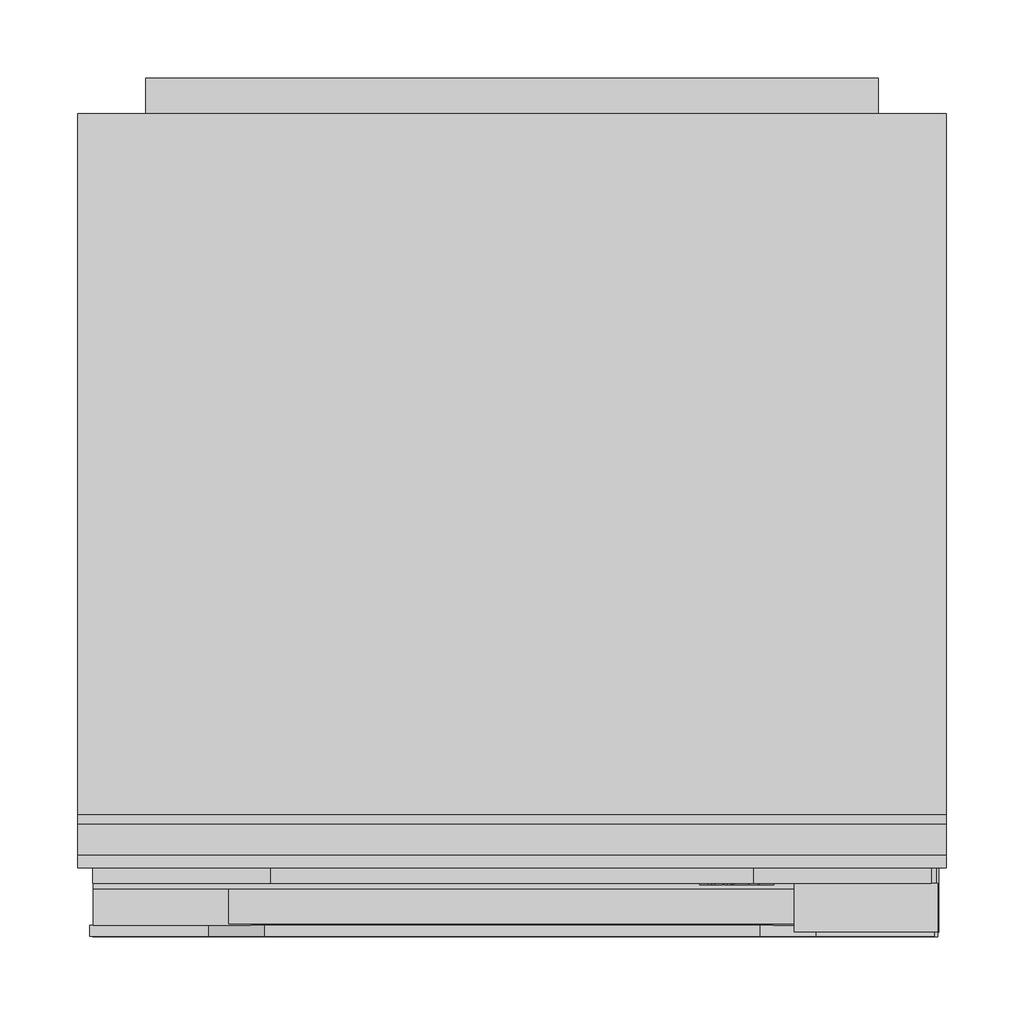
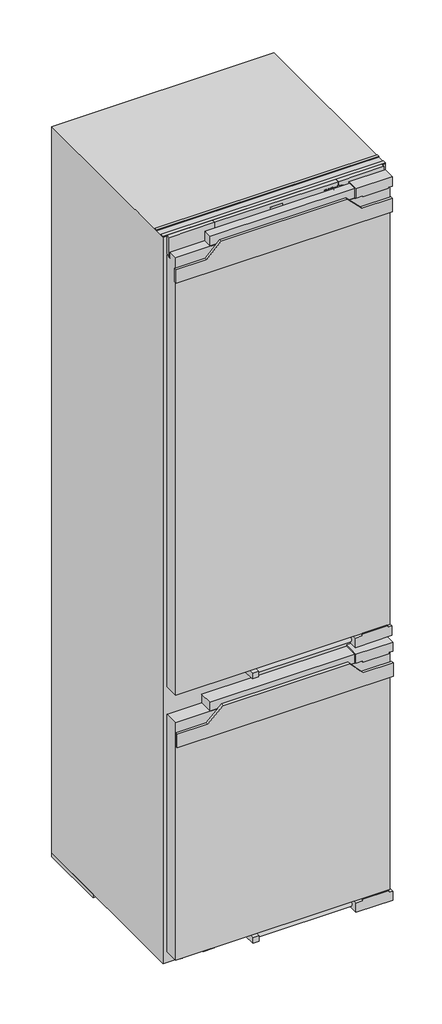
# Not in any storey: 1 proxy.
"""IFC4 building model written with IfcOpenShell, lengths in millimetres."""

import ifcopenshell
import ifcopenshell.guid

model = None  # the IFC model being written
_history = None  # IfcOwnerHistory: only IFC2X3 demands one
_inside = {}  # id of a spatial element -> (the spatial element, [elements in it])
_under = {}  # id of a project, library or spatial element -> (it, [spatial elements below it])
_declared = {}  # id of a project -> (the project, [libraries it declares])
_typed = {}  # id of a type object -> (the type object, [elements of that type])
_made_of = {}  # id of a material, layer set ... -> (it, [elements and type objects made of it])


def new_model(schema):
    """Start an empty IFC model of exactly this schema.

    Asked for "IFC4X3", IfcOpenShell would pick the latest addendum, in which some entities
    have other attributes; the version numbers below select the first issue.
    IFC2X3 requires an IfcOwnerHistory on every rooted entity: one is made here for all.
    """
    global model, _history
    if schema == "IFC4X3":
        model = ifcopenshell.file(schema_version=(4, 3, 0, 0))
    else:
        model = ifcopenshell.file(schema=schema)
    _inside.clear()
    _under.clear()
    _declared.clear()
    _typed.clear()
    _made_of.clear()
    _history = None
    if model.schema == "IFC2X3":
        org = make("IfcOrganization", Name="unknown")
        user = make(
            "IfcPersonAndOrganization",
            ThePerson=make("IfcPerson", FamilyName="unknown"),
            TheOrganization=org,
        )
        app = make(
            "IfcApplication",
            ApplicationDeveloper=org,
            Version="unknown",
            ApplicationFullName="unknown",
            ApplicationIdentifier="unknown",
        )
        _history = make(
            "IfcOwnerHistory",
            OwningUser=user,
            OwningApplication=app,
            ChangeAction="ADDED",
            CreationDate=0,
        )
    return model


def make(cls, **values):
    """One entity of the class cls with the attributes given. An attribute that is None is left unset."""
    return model.create_entity(
        cls, **{name: value for name, value in values.items() if value is not None}
    )


def rooted(cls, **values):
    """An entity with a GlobalId (a new one), such as an element, a storey or a relation."""
    return make(cls, GlobalId=ifcopenshell.guid.new(), OwnerHistory=_history, **values)


def si_unit(unit_type, name, prefix=None):
    """IfcSIUnit, for example si_unit("LENGTHUNIT", "METRE", prefix="MILLI")."""
    return make("IfcSIUnit", UnitType=unit_type, Prefix=prefix, Name=name)


def assignment(units):
    """IfcUnitAssignment: the units of a project."""
    return None if units is None else make("IfcUnitAssignment", Units=units)


def point(xyz):
    """IfcCartesianPoint."""
    return None if xyz is None else make("IfcCartesianPoint", Coordinates=xyz)


def direction(xyz):
    """IfcDirection."""
    return None if xyz is None else make("IfcDirection", DirectionRatios=xyz)


def frame(location, z_axis=None, x_axis=None):
    """IfcAxis2Placement3D, a coordinate frame: its origin and axes. An axis left out is left unset."""
    return make(
        "IfcAxis2Placement3D",
        Location=point(location),
        Axis=direction(z_axis),
        RefDirection=direction(x_axis),
    )


def frame_2d(location, x_axis=None):
    """IfcAxis2Placement2D, a coordinate frame in the plane: its origin and x axis."""
    return make(
        "IfcAxis2Placement2D", Location=point(location), RefDirection=direction(x_axis)
    )


def origin():
    """The frame at (0, 0, 0) with its axes left unset."""
    return frame((0.0, 0.0, 0.0))


def origin_with_axes():
    """The frame at (0, 0, 0) with the z axis (0, 0, 1) and the x axis (1, 0, 0) written out."""
    return frame((0.0, 0.0, 0.0), z_axis=(0.0, 0.0, 1.0), x_axis=(1.0, 0.0, 0.0))


def place(relative_to, where):
    """IfcLocalPlacement: puts the frame where relative to a parent placement (None: the world)."""
    return make(
        "IfcLocalPlacement", PlacementRelTo=relative_to, RelativePlacement=where
    )


def context(
    kind, dimensions, precision=None, world=None, true_north=None, identifier=None
):
    """IfcGeometricRepresentationContext, for example the 3D "Model" context."""
    return make(
        "IfcGeometricRepresentationContext",
        ContextIdentifier=identifier,
        ContextType=kind,
        CoordinateSpaceDimension=dimensions,
        Precision=precision,
        WorldCoordinateSystem=world,
        TrueNorth=true_north,
    )


def project(units=None, contexts=None):
    """IfcProject with its units and contexts."""
    return rooted(
        "IfcProject",
        Name="project",
        RepresentationContexts=contexts,
        UnitsInContext=assignment(units),
    )


def spatial(cls, under=None, at=None, **own):
    """A site, building, storey or space (cls), placed at a placement, below another one or the project."""
    s = rooted(cls, ObjectPlacement=at, **own)
    if under is not None:
        _under.setdefault(under.id(), (under, []))[1].append(s)
    return s


def polyline(points):
    """IfcPolyline through the points."""
    return make("IfcPolyline", Points=[point(p) for p in points])


def circle_curve(where, radius):
    """IfcCircle in the frame where."""
    return make("IfcCircle", Position=where, Radius=radius)


def ellipse_curve(where, semi_axis1, semi_axis2):
    """IfcEllipse in the frame where."""
    return make(
        "IfcEllipse", Position=where, SemiAxis1=semi_axis1, SemiAxis2=semi_axis2
    )


def trimmed(basis, trim1, trim2, sense, master):
    """IfcTrimmedCurve: the piece of a basis curve between two trims."""
    return make(
        "IfcTrimmedCurve",
        BasisCurve=basis,
        Trim1=trim1,
        Trim2=trim2,
        SenseAgreement=sense,
        MasterRepresentation=master,
    )


def segment(curve, same_sense, transition):
    """IfcCompositeCurveSegment."""
    return make(
        "IfcCompositeCurveSegment",
        Transition=transition,
        SameSense=same_sense,
        ParentCurve=curve,
    )


def composite_curve(segments, self_intersect=None):
    """IfcCompositeCurve: segments joined end to end."""
    return make("IfcCompositeCurve", Segments=segments, SelfIntersect=self_intersect)


def outline(outer, holes=None, kind="AREA"):
    """IfcArbitraryClosedProfileDef: a profile drawn as a closed curve; with holes, ...WithVoids."""
    if holes is None:
        return make("IfcArbitraryClosedProfileDef", ProfileType=kind, OuterCurve=outer)
    return make(
        "IfcArbitraryProfileDefWithVoids",
        ProfileType=kind,
        OuterCurve=outer,
        InnerCurves=holes,
    )


def extrude(swept, where, along, depth):
    """IfcExtrudedAreaSolid: the profile swept, set in the frame where, extruded along a direction by depth."""
    return make(
        "IfcExtrudedAreaSolid",
        SweptArea=swept,
        Position=where,
        ExtrudedDirection=direction(along),
        Depth=depth,
    )


def faces_of(points, faces, orient=None, outer=None):
    """IfcFace entities. A face is a list of loops; a loop is a list of indices into points, from 0.

    orient and outer hold one flag for each loop. By default every Orientation is true, the
    first loop of a face is its IfcFaceOuterBound and the others are IfcFaceBound.
    """
    made = []
    for i, loops in enumerate(faces):
        bounds = []
        for j, loop in enumerate(loops):
            is_outer = j == 0 if outer is None else outer[i][j]
            bounds.append(
                make(
                    "IfcFaceOuterBound" if is_outer else "IfcFaceBound",
                    Bound=make("IfcPolyLoop", Polygon=[points[k] for k in loop]),
                    Orientation=True if orient is None else orient[i][j],
                )
            )
        made.append(make("IfcFace", Bounds=bounds))
    return made


def faceted_brep(points, faces, orient=None, outer=None, voids=None):
    """IfcFacetedBrep: a solid bounded by flat faces; with voids (closed shells), ...WithVoids."""
    shared = [point(p) for p in points]
    hull = make("IfcClosedShell", CfsFaces=faces_of(shared, faces, orient, outer))
    if voids is None:
        return make("IfcFacetedBrep", Outer=hull)
    return make(
        "IfcFacetedBrepWithVoids",
        Outer=hull,
        Voids=[
            make(cls, CfsFaces=faces_of(shared, fs, o, b)) for cls, fs, o, b in voids
        ],
    )


def shape(context_of_items, identifier, shape_type, items):
    """IfcShapeRepresentation: the items that make up one representation, for example the "Body"."""
    return make(
        "IfcShapeRepresentation",
        ContextOfItems=context_of_items,
        RepresentationIdentifier=identifier,
        RepresentationType=shape_type,
        Items=items,
    )


def source(mapping_origin, context_of_items, identifier, shape_type, items):
    """IfcRepresentationMap: a shape defined once, which mapped items show again and again."""
    return make(
        "IfcRepresentationMap",
        MappingOrigin=mapping_origin,
        MappedRepresentation=shape(context_of_items, identifier, shape_type, items),
    )


def transform(
    local_origin,
    x_axis=None,
    y_axis=None,
    z_axis=None,
    scale=None,
    scale2=None,
    scale3=None,
    uniform=True,
):
    """IfcCartesianTransformationOperator3D, or its non-uniform kind. x_axis, y_axis, z_axis: its Axis1, 2, 3."""
    if uniform:
        return make(
            "IfcCartesianTransformationOperator3D",
            Axis1=direction(x_axis),
            Axis2=direction(y_axis),
            LocalOrigin=point(local_origin),
            Scale=scale,
            Axis3=direction(z_axis),
        )
    return make(
        "IfcCartesianTransformationOperator3DnonUniform",
        Axis1=direction(x_axis),
        Axis2=direction(y_axis),
        LocalOrigin=point(local_origin),
        Scale=scale,
        Axis3=direction(z_axis),
        Scale2=scale2,
        Scale3=scale3,
    )


def mapped(mapping_source, mapping_target):
    """IfcMappedItem: shows the shape of a source again, moved by a transform."""
    return make(
        "IfcMappedItem", MappingSource=mapping_source, MappingTarget=mapping_target
    )


def made_of(thing, what):
    """Note that an element or type object is made of a material, layer set ...; save() writes the relation."""
    if what is not None:
        _made_of.setdefault(what.id(), (what, []))[1].append(thing)
    return thing


def element(
    cls,
    number,
    at=None,
    inside=None,
    cuts=None,
    type_object=None,
    material=None,
    context=None,
    identifier="Body",
    shape_type=None,
    held_by="IfcProductDefinitionShape",
    body=None,
    shapes=None,
    **own,
):
    """One element of the class cls, such as IfcWall. Its Tag is "e" and its number.

    at: its placement. inside: the storey or other place that contains it. cuts: it is an
    opening in that element (IfcRelVoidsElement). A single representation is given by context,
    identifier, shape_type and body (its items); several are given by shapes. held_by: the class
    of the entity that holds the representations. save() writes the other relations.
    """
    e = rooted(cls, Tag="e%d" % number, ObjectPlacement=at, **own)
    if body is not None:
        shapes = [shape(context, identifier, shape_type, body)]
    if shapes is not None:
        e.Representation = make(held_by, Representations=shapes)
    if inside is not None:
        _inside.setdefault(inside.id(), (inside, []))[1].append(e)
    if cuts is not None:
        rooted(
            "IfcRelVoidsElement", RelatingBuildingElement=cuts, RelatedOpeningElement=e
        )
    if type_object is not None:
        _typed.setdefault(type_object.id(), (type_object, []))[1].append(e)
    return made_of(e, material)


def aggregate(whole, parts):
    """IfcRelAggregates: a whole, such as a stair, and the parts it consists of."""
    return rooted("IfcRelAggregates", RelatingObject=whole, RelatedObjects=parts)


def save(model, path):
    """Write the relations noted so far, then the file.

    IfcRelAggregates (storeys below a building ...), IfcRelContainedInSpatialStructure (elements
    in a storey), IfcRelDefinesByType, IfcRelAssociatesMaterial and IfcRelDeclares: one each for
    every whole, place, type object, material and project.
    """
    for whole, parts in _under.values():
        aggregate(whole, parts)
    for where, things in _inside.values():
        rooted(
            "IfcRelContainedInSpatialStructure",
            RelatedElements=things,
            RelatingStructure=where,
        )
    for kind, things in _typed.values():
        rooted("IfcRelDefinesByType", RelatedObjects=things, RelatingType=kind)
    for what, things in _made_of.values():
        rooted("IfcRelAssociatesMaterial", RelatedObjects=things, RelatingMaterial=what)
    for by, libraries in _declared.values():
        rooted("IfcRelDeclares", RelatingContext=by, RelatedDefinitions=libraries)
    model.write(path)


def plane_surface(at):
    """IfcPlane: the flat surface through the origin of the frame at, square to its z axis."""
    return make("IfcPlane", Position=at)


def cylinder_surface(at, radius):
    """IfcCylindricalSurface: all points at the distance radius from the z axis of the frame at."""
    return make("IfcCylindricalSurface", Position=at, Radius=radius)


def revolved_surface(curve, axis_point, axis_direction):
    """IfcSurfaceOfRevolution: the curve turned about the line through axis_point along axis_direction."""
    return make(
        "IfcSurfaceOfRevolution",
        SweptCurve=make("IfcArbitraryOpenProfileDef", ProfileType="CURVE", Curve=curve),
        AxisPosition=make("IfcAxis1Placement", Location=point(axis_point), Axis=direction(axis_direction)),
    )


def extruded_surface(curve, direction_of_extrusion, depth):
    """IfcSurfaceOfLinearExtrusion: the curve pushed along a direction by depth."""
    return make(
        "IfcSurfaceOfLinearExtrusion",
        SweptCurve=make("IfcArbitraryOpenProfileDef", ProfileType="CURVE", Curve=curve),
        ExtrudedDirection=direction(direction_of_extrusion),
        Depth=depth,
    )


def advanced_brep(points, edges, surfaces, faces):
    """IfcAdvancedBrep: a solid bounded by faces that lie on surfaces and meet in shared edges.

    An edge is (start, end): straight between two places in points (the first is 0);
    or (start, end, curve); or (start, end, curve, False) where it runs against its curve.
    A face is (place in surfaces, loops), or (place, loops, False) where it looks against
    its surface's normal. A loop lists edges by number (the first is 1), with a minus sign
    where the edge is run from its end to its start. The first loop is the outer one.
    """
    corners = [point(p) for p in points]
    vertices = [make("IfcVertexPoint", VertexGeometry=c) for c in corners]
    made = []
    for start, end, *more in edges:
        made.append(
            make(
                "IfcEdgeCurve",
                EdgeStart=vertices[start],
                EdgeEnd=vertices[end],
                EdgeGeometry=more[0] if more else make("IfcPolyline", Points=[corners[start], corners[end]]),
                SameSense=more[1] if len(more) > 1 else True,
            )
        )
    hull = []
    for where, loops, *sense in faces:
        bounds = []
        for j, loop in enumerate(loops):
            ring = [make("IfcOrientedEdge", EdgeElement=made[abs(k) - 1], Orientation=k > 0) for k in loop]
            bounds.append(
                make(
                    "IfcFaceOuterBound" if j == 0 else "IfcFaceBound",
                    Bound=make("IfcEdgeLoop", EdgeList=ring),
                    Orientation=True,
                )
            )
        hull.append(make("IfcAdvancedFace", Bounds=bounds, FaceSurface=surfaces[where], SameSense=sense[0] if sense else True))
    return make("IfcAdvancedBrep", Outer=make("IfcClosedShell", CfsFaces=hull))


def specialty_equipment_554c32f7(model_context):
    return source(origin(), model_context, "Body", "SolidModel", [
        advanced_brep(
        [(162.7818, 33.0, 1920.3478), (162.7818, 33.0, 1921.1356), (168.0, 33.0, 1921.1356), (158.9208, 33.0, 1921.1356), (161.0658, 33.0, 1918.4992), (167.8674, 33.0, 1920.3478), (165.5118, 33.0, 1920.3478), (163.6554, 33.0, 1919.4742), (162.7818, 33.0, 1922.134), (162.7818, 33.0, 1922.9842), (164.1156, 33.0, 1922.9842), (164.1156, 33.0, 1922.134), (162.7818, 34.0, 1920.3478), (163.6554, 34.0, 1919.4742), (165.5118, 34.0, 1920.3478), (167.8674, 34.0, 1920.3478), (161.0658, 34.0, 1918.4992), (158.9208, 34.0, 1921.1356), (168.0, 34.0, 1921.1356), (162.7818, 34.0, 1921.1356), (162.7818, 34.0, 1922.134), (164.1156, 34.0, 1922.134), (164.1156, 34.0, 1922.9842), (162.7818, 34.0, 1922.9842)],
        [
            (0, 1),
            (1, 2),
            (2, 3, ellipse_curve(frame((163.4604, 33.0, 1921.1356), z_axis=(0.0, -1.0, 0.0), x_axis=(-1.0, 0.0, 0.0)), 4.5396, 3.7518)),
            (3, 4, circle_curve(frame((161.9394425, 33.0, 1921.4008), z_axis=(0.0, -1.0, 0.0), x_axis=(0.0, 0.0, -1.0)), 3.0302696)),
            (4, 5, circle_curve(frame((163.3695237, 33.0, 1923.46), z_axis=(0.0, -1.0, 0.0), x_axis=(0.0, 0.0, -1.0)), 5.4696142)),
            (5, 6),
            (6, 7, circle_curve(frame((164.0366824, 33.0, 1921.0732), z_axis=(0.0, 1.0, 0.0), x_axis=(0.0, 0.0, -1.0)), 1.64383)),
            (7, 0, circle_curve(frame((163.6554, 33.0, 1920.3478), z_axis=(0.0, 1.0, 0.0), x_axis=(0.0, 0.0, -1.0)), 0.8736)),
            (8, 9),
            (9, 10, circle_curve(frame((163.4487, 33.0, 1922.9842), z_axis=(0.0, 1.0, 0.0), x_axis=(0.0, 0.0, -1.0)), 0.6669)),
            (10, 11),
            (11, 8),
            (12, 13, circle_curve(frame((163.6554, 34.0, 1920.3478), z_axis=(0.0, -1.0, 0.0), x_axis=(0.0, 0.0, -1.0)), 0.8736)),
            (13, 14, circle_curve(frame((164.0366824, 34.0, 1921.0732), z_axis=(0.0, -1.0, 0.0), x_axis=(0.0, 0.0, -1.0)), 1.64383)),
            (14, 15),
            (15, 16, circle_curve(frame((163.3695237, 34.0, 1923.46), z_axis=(0.0, 1.0, 0.0), x_axis=(0.0, 0.0, -1.0)), 5.4696142)),
            (16, 17, circle_curve(frame((161.9394425, 34.0, 1921.4008), z_axis=(0.0, 1.0, 0.0), x_axis=(0.0, 0.0, -1.0)), 3.0302696)),
            (17, 18, ellipse_curve(frame((163.4604, 34.0, 1921.1356), z_axis=(0.0, 1.0, 0.0), x_axis=(-1.0, 0.0, 0.0)), 4.5396, 3.7518)),
            (18, 19),
            (19, 12),
            (20, 21),
            (21, 22),
            (22, 23, circle_curve(frame((163.4487, 34.0, 1922.9842), z_axis=(0.0, -1.0, 0.0), x_axis=(0.0, 0.0, -1.0)), 0.6669)),
            (23, 20),
            (0, 12),
            (19, 1),
            (18, 2),
            (5, 15),
            (14, 6),
            (17, 3),
            (13, 7),
            (16, 4),
            (8, 20),
            (23, 9),
            (22, 10),
            (21, 11),
        ],
        [
            plane_surface(frame((162.7818, 33.0, 1921.1356), z_axis=(0.0, -1.0, 0.0), x_axis=(0.0, 0.0, 1.0))),
            plane_surface(frame((162.7818, 34.0, 1921.1356), z_axis=(0.0, 1.0, 0.0), x_axis=(0.0, 0.0, -1.0))),
            plane_surface(frame((162.7818, 33.0, 1920.3478), z_axis=(1.0, 0.0, 0.0), x_axis=(0.0, 1.0, 0.0))),
            plane_surface(frame((162.7818, 33.0, 1921.1356), z_axis=(0.0, 0.0, -1.0), x_axis=(0.0, 1.0, 0.0))),
            plane_surface(frame((167.8674, 33.0, 1920.3478), z_axis=(0.0, 0.0, 1.0), x_axis=(0.0, 1.0, 0.0))),
            extruded_surface(trimmed(ellipse_curve(frame((163.4604, 35.0, 1921.1356), z_axis=(0.0, -1.0, 0.0), x_axis=(-1.0, 0.0, 0.0)), 4.5396, 3.7518), [point((168.0, 35.0, 1921.1356))], [point((158.9208, 35.0, 1921.1356))], True, "CARTESIAN"), (0.0, -1.0, 0.0), 1.0),
            revolved_surface(polyline([(164.0366824, 34.0, 1919.42937), (164.0366824, 33.0, 1919.42937)]), (164.0366824, 34.0, 1921.0732), (0.0, 1.0, 0.0)),
            revolved_surface(polyline([(163.6554, 34.0, 1919.4742), (163.6554, 33.0, 1919.4742)]), (163.6554, 34.0, 1920.3478), (0.0, 1.0, 0.0)),
            cylinder_surface(frame((161.9394425, 34.0, 1921.4008), z_axis=(0.0, -1.0, 0.0), x_axis=(0.0, 0.0, -1.0)), 3.0302696),
            cylinder_surface(frame((163.3695237, 34.0, 1923.46), z_axis=(0.0, -1.0, 0.0), x_axis=(0.0, 0.0, -1.0)), 5.4696142),
            plane_surface(frame((162.7818, 33.0, 1922.134), z_axis=(1.0, 0.0, 0.0), x_axis=(0.0, 1.0, 0.0))),
            revolved_surface(polyline([(163.4487, 34.0, 1922.3173000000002), (163.4487, 33.0, 1922.3173000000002)]), (163.4487, 34.0, 1922.9842), (0.0, 1.0, 0.0)),
            plane_surface(frame((164.1156, 33.0, 1922.9842), z_axis=(-1.0, 0.0, 0.0), x_axis=(0.0, 1.0, 0.0))),
            plane_surface(frame((164.1156, 33.0, 1922.134), z_axis=(0.0, 0.0, 1.0), x_axis=(0.0, 1.0, 0.0))),
        ],
        [
            (0, [[1, 2, 3, 4, 5, 6, 7, 8], [9, 10, 11, 12]]),
            (1, [[13, 14, 15, 16, 17, 18, 19, 20], [21, 22, 23, 24]]),
            (2, [[-1, 25, -20, 26]]),
            (3, [[-2, -26, -19, 27]]),
            (4, [[-6, 28, -15, 29]]),
            (5, [[-3, -27, -18, 30]]),
            (6, [[-7, -29, -14, 31]]),
            (7, [[-8, -31, -13, -25]]),
            (8, [[-4, -30, -17, 32]]),
            (9, [[-5, -32, -16, -28]]),
            (10, [[-9, 33, -24, 34]]),
            (11, [[-10, -34, -23, 35]]),
            (12, [[-11, -35, -22, 36]]),
            (13, [[-12, -36, -21, -33]]),
        ],
    ),
        advanced_brep(
        [(146.5032, 33.0, 1920.3478), (146.5032, 33.0, 1921.1356), (151.7214, 33.0, 1921.1356), (142.6422, 33.0, 1921.1356), (144.7872, 33.0, 1918.4992), (151.5888, 33.0, 1920.3478), (149.2332, 33.0, 1920.3478), (147.3768, 33.0, 1919.4742), (146.5032, 33.0, 1922.134), (146.5032, 33.0, 1922.9842), (147.837, 33.0, 1922.9842), (147.837, 33.0, 1922.134), (146.5032, 34.0, 1920.3478), (147.3768, 34.0, 1919.4742), (149.2332, 34.0, 1920.3478), (151.5888, 34.0, 1920.3478), (144.7872, 34.0, 1918.4992), (142.6422, 34.0, 1921.1356), (151.7214, 34.0, 1921.1356), (146.5032, 34.0, 1921.1356), (146.5032, 34.0, 1922.134), (147.837, 34.0, 1922.134), (147.837, 34.0, 1922.9842), (146.5032, 34.0, 1922.9842)],
        [
            (0, 1),
            (1, 2),
            (2, 3, ellipse_curve(frame((147.1818, 33.0, 1921.1356), z_axis=(0.0, -1.0, 0.0), x_axis=(-1.0, 0.0, 0.0)), 4.5396, 3.7518)),
            (3, 4, circle_curve(frame((145.6608425, 33.0, 1921.4008), z_axis=(0.0, -1.0, 0.0), x_axis=(0.0, 0.0, -1.0)), 3.0302696)),
            (4, 5, circle_curve(frame((147.0909237, 33.0, 1923.46), z_axis=(0.0, -1.0, 0.0), x_axis=(0.0, 0.0, -1.0)), 5.4696142)),
            (5, 6),
            (6, 7, circle_curve(frame((147.7580824, 33.0, 1921.0732), z_axis=(0.0, 1.0, 0.0), x_axis=(0.0, 0.0, -1.0)), 1.64383)),
            (7, 0, circle_curve(frame((147.3768, 33.0, 1920.3478), z_axis=(0.0, 1.0, 0.0), x_axis=(0.0, 0.0, -1.0)), 0.8736)),
            (8, 9),
            (9, 10, circle_curve(frame((147.1701, 33.0, 1922.9842), z_axis=(0.0, 1.0, 0.0), x_axis=(0.0, 0.0, -1.0)), 0.6669)),
            (10, 11),
            (11, 8),
            (12, 13, circle_curve(frame((147.3768, 34.0, 1920.3478), z_axis=(0.0, -1.0, 0.0), x_axis=(0.0, 0.0, -1.0)), 0.8736)),
            (13, 14, circle_curve(frame((147.7580824, 34.0, 1921.0732), z_axis=(0.0, -1.0, 0.0), x_axis=(0.0, 0.0, -1.0)), 1.64383)),
            (14, 15),
            (15, 16, circle_curve(frame((147.0909237, 34.0, 1923.46), z_axis=(0.0, 1.0, 0.0), x_axis=(0.0, 0.0, -1.0)), 5.4696142)),
            (16, 17, circle_curve(frame((145.6608425, 34.0, 1921.4008), z_axis=(0.0, 1.0, 0.0), x_axis=(0.0, 0.0, -1.0)), 3.0302696)),
            (17, 18, ellipse_curve(frame((147.1818, 34.0, 1921.1356), z_axis=(0.0, 1.0, 0.0), x_axis=(-1.0, 0.0, 0.0)), 4.5396, 3.7518)),
            (18, 19),
            (19, 12),
            (20, 21),
            (21, 22),
            (22, 23, circle_curve(frame((147.1701, 34.0, 1922.9842), z_axis=(0.0, -1.0, 0.0), x_axis=(0.0, 0.0, -1.0)), 0.6669)),
            (23, 20),
            (0, 12),
            (19, 1),
            (18, 2),
            (5, 15),
            (14, 6),
            (17, 3),
            (13, 7),
            (16, 4),
            (8, 20),
            (23, 9),
            (22, 10),
            (21, 11),
        ],
        [
            plane_surface(frame((146.5032, 33.0, 1921.1356), z_axis=(0.0, -1.0, 0.0), x_axis=(0.0, 0.0, 1.0))),
            plane_surface(frame((146.5032, 34.0, 1921.1356), z_axis=(0.0, 1.0, 0.0), x_axis=(0.0, 0.0, -1.0))),
            plane_surface(frame((146.5032, 33.0, 1920.3478), z_axis=(1.0, 0.0, 0.0), x_axis=(0.0, 1.0, 0.0))),
            plane_surface(frame((146.5032, 33.0, 1921.1356), z_axis=(0.0, 0.0, -1.0), x_axis=(0.0, 1.0, 0.0))),
            plane_surface(frame((151.5888, 33.0, 1920.3478), z_axis=(0.0, 0.0, 1.0), x_axis=(0.0, 1.0, 0.0))),
            extruded_surface(trimmed(ellipse_curve(frame((147.1818, 35.0, 1921.1356), z_axis=(0.0, -1.0, 0.0), x_axis=(-1.0, 0.0, 0.0)), 4.5396, 3.7518), [point((151.7214, 35.0, 1921.1356))], [point((142.6422, 35.0, 1921.1356))], True, "CARTESIAN"), (0.0, -1.0, 0.0), 1.0),
            revolved_surface(polyline([(147.7580824, 34.0, 1919.42937), (147.7580824, 33.0, 1919.42937)]), (147.7580824, 34.0, 1921.0732), (0.0, 1.0, 0.0)),
            revolved_surface(polyline([(147.3768, 34.0, 1919.4742), (147.3768, 33.0, 1919.4742)]), (147.3768, 34.0, 1920.3478), (0.0, 1.0, 0.0)),
            cylinder_surface(frame((145.6608425, 34.0, 1921.4008), z_axis=(0.0, -1.0, 0.0), x_axis=(0.0, 0.0, -1.0)), 3.0302696),
            cylinder_surface(frame((147.0909237, 34.0, 1923.46), z_axis=(0.0, -1.0, 0.0), x_axis=(0.0, 0.0, -1.0)), 5.4696142),
            plane_surface(frame((146.5032, 33.0, 1922.134), z_axis=(1.0, 0.0, 0.0), x_axis=(0.0, 1.0, 0.0))),
            revolved_surface(polyline([(147.1701, 34.0, 1922.3173000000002), (147.1701, 33.0, 1922.3173000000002)]), (147.1701, 34.0, 1922.9842), (0.0, 1.0, 0.0)),
            plane_surface(frame((147.837, 33.0, 1922.9842), z_axis=(-1.0, 0.0, 0.0), x_axis=(0.0, 1.0, 0.0))),
            plane_surface(frame((147.837, 33.0, 1922.134), z_axis=(0.0, 0.0, 1.0), x_axis=(0.0, 1.0, 0.0))),
        ],
        [
            (0, [[1, 2, 3, 4, 5, 6, 7, 8], [9, 10, 11, 12]]),
            (1, [[13, 14, 15, 16, 17, 18, 19, 20], [21, 22, 23, 24]]),
            (2, [[-1, 25, -20, 26]]),
            (3, [[-2, -26, -19, 27]]),
            (4, [[-6, 28, -15, 29]]),
            (5, [[-3, -27, -18, 30]]),
            (6, [[-7, -29, -14, 31]]),
            (7, [[-8, -31, -13, -25]]),
            (8, [[-4, -30, -17, 32]]),
            (9, [[-5, -32, -16, -28]]),
            (10, [[-9, 33, -24, 34]]),
            (11, [[-10, -34, -23, 35]]),
            (12, [[-11, -35, -22, 36]]),
            (13, [[-12, -36, -21, -33]]),
        ],
    ),
        extrude(outline(polyline([(1925.839, 137.9778), (1924.5754, 138.5706), (1925.8078, 141.2148), (1927.0714, 140.6298), (1925.839, 137.9778)])), frame((0.0, 33.0, 0.0), z_axis=(0.0, 1.0, 0.0), x_axis=(0.0, 0.0, 1.0)), (0.0, 0.0, 1.0), 1.0),
        extrude(outline(polyline([(1924.4038, 136.0512), (1923.0076, 136.0512), (1923.0076, 136.9794), (1919.8096, 136.9794), (1919.8096, 136.0512), (1918.4992, 136.0512), (1918.4992, 142.2054), (1919.8096, 142.2054), (1919.8096, 141.3006), (1924.4038, 141.3006), (1924.4038, 136.0512)])), frame((0.0, 33.0, 0.0), z_axis=(0.0, 1.0, 0.0), x_axis=(0.0, 0.0, 1.0)), (0.0, 0.0, 1.0), 1.0),
        extrude(outline(polyline([(1925.0278, 152.1582), (1925.0278, 153.0942), (1919.8096, 153.0942), (1919.8096, 152.1582), (1918.4992, 152.1582), (1918.4992, 158.484), (1919.8096, 158.484), (1919.8096, 157.5246), (1926.2992, 157.5246), (1926.2992, 152.1582), (1925.0278, 152.1582)])), frame((0.0, 33.0, 0.0), z_axis=(0.0, 1.0, 0.0), x_axis=(0.0, 0.0, 1.0)), (0.0, 0.0, 1.0), 1.0),
        extrude(outline(polyline([(1925.0278, 120.5058), (1925.0278, 121.4496), (1919.8096, 121.4496), (1919.8096, 120.5058), (1918.4992, 120.5058), (1918.4992, 123.9378), (1919.8096, 123.9378), (1919.8096, 123.0018), (1923.1289247, 123.0018), (1918.4992, 126.4884), (1923.1894223, 129.9906), (1919.8096, 129.9906), (1919.8096, 129.0312), (1918.4992, 129.0312), (1918.4992, 135.2556), (1919.8096, 135.2556), (1919.8096, 134.265), (1925.0278, 134.265), (1925.0278, 135.2556), (1926.2992, 135.2556), (1926.2992, 130.5054), (1923.3742, 128.2278), (1926.2992, 125.9424), (1926.2992, 120.5058), (1925.0278, 120.5058)])), frame((0.0, 33.0, 0.0), z_axis=(0.0, 1.0, 0.0), x_axis=(0.0, 0.0, 1.0)), (0.0, 0.0, 1.0), 1.0),
        extrude(outline(polyline([(-268.65, 44.0), (268.65, 44.0), (268.65, 7.0), (-268.65, 7.0), (-268.65, 44.0)])), frame((0.0, 0.0, 38.0), z_axis=(0.0, 0.0, 1.0), x_axis=(1.0, 0.0, 0.0)), (0.0, 0.0, 1.0), 629.0),
        extrude(outline(polyline([(1902.2953112, 263.2294749), (1902.2953112, 273.2294749), (1927.0, 273.2294749), (1927.0, 181.2294749), (1902.2953112, 181.2294749), (1902.2953112, 199.2294749), (1900.0, 199.2294749), (1900.0, 263.2294749), (1902.2953112, 263.2294749)])), frame((0.0, 3.0, 0.0), z_axis=(0.0, 1.0, 0.0), x_axis=(0.0, 0.0, 1.0)), (0.0, 0.0, 1.0), 31.0),
        extrude(outline(polyline([(693.8058281, 273.65), (693.8058281, 181.65), (669.8058281, 181.65), (669.8058281, 199.65), (666.8058281, 199.65), (666.8058281, 263.65), (669.8058281, 263.65), (669.8058281, 273.65), (693.8058281, 273.65)])), frame((0.0, 3.0, 0.0), z_axis=(0.0, 1.0, 0.0), x_axis=(0.0, 0.0, 1.0)), (0.0, 0.0, 1.0), 41.0),
        extrude(outline(polyline([(33.8058281, 199.65), (33.8058281, 181.65), (9.8058281, 181.65), (9.8058281, 273.65), (33.8058281, 273.65), (33.8058281, 263.65), (37.8058281, 263.65), (37.8058281, 199.65), (33.8058281, 199.65)])), frame((0.0, 3.0, 0.0), z_axis=(0.0, 1.0, 0.0), x_axis=(0.0, 0.0, 1.0)), (0.0, 0.0, 1.0), 41.0),
        extrude(outline(polyline([(-181.65, 44.0), (181.65, 44.0), (181.65, 8.0), (-181.65, 8.0), (-181.65, 44.0)])), frame((0.0, 0.0, 667.0), z_axis=(0.0, 0.0, 1.0), x_axis=(1.0, 0.0, 0.0)), (0.0, 0.0, 1.0), 23.0),
        extrude(outline(polyline([(7.0, 740.0), (7.0, 1900.0), (30.0, 1900.0), (30.0, 1885.0), (44.0, 1885.0), (44.0, 740.0), (7.0, 740.0)])), frame((-268.65, 0.0, 0.0), z_axis=(1.0, 0.0, 0.0), x_axis=(0.0, 1.0, 0.0)), (0.0, 0.0, 1.0), 537.3),
        extrude(outline(polyline([(181.65, 8.0), (-181.65, 8.0), (-181.65, 30.0), (181.65, 30.0), (181.65, 8.0)])), frame((0.0, 0.0, 1900.0), z_axis=(0.0, 0.0, 1.0), x_axis=(1.0, 0.0, 0.0)), (0.0, 0.0, 1.0), 26.0),
        extrude(outline(polyline([(737.0, 198.15), (737.0, 180.15), (712.0, 180.15), (712.0, 272.15), (737.0, 272.15), (737.0, 262.15), (741.0, 262.15), (741.0, 198.15), (737.0, 198.15)])), frame((0.0, 3.0, 0.0), z_axis=(0.0, 1.0, 0.0), x_axis=(0.0, 0.0, 1.0)), (0.0, 0.0, 1.0), 41.0),
        extrude(outline(polyline([(1837.0, 271.0), (1873.0, 271.0), (1873.0, 195.0), (1909.0, 159.0), (1909.0, -159.0), (1873.0, -195.0), (1873.0, -271.0), (1837.0, -271.0), (1837.0, 271.0)])), frame((0.0, 0.0, 0.0), z_axis=(0.0, 1.0, 0.0), x_axis=(0.0, 0.0, 1.0)), (0.0, 0.0, 1.0), 7.0),
        extrude(outline(polyline([(605.0, 273.15), (641.0, 273.15), (641.0, 197.15), (677.0, 164.15), (677.0, -153.85), (641.0, -192.85), (641.0, -268.85), (605.0, -268.85), (605.0, 273.15)])), frame((0.0, 0.0, 0.0), z_axis=(0.0, 1.0, 0.0), x_axis=(0.0, 0.0, 1.0)), (0.0, 0.0, 1.0), 7.0),
        extrude(outline(polyline([(-73.9870219, 42.0), (-58.9870219, 42.0), (-58.9870219, 8.0), (-73.9870219, 8.0), (-73.9870219, 42.0)])), frame((0.0, 0.0, 14.0005845), z_axis=(0.0, 0.0, 1.0), x_axis=(1.0, 0.0, 0.0)), (0.0, 0.0, 1.0), 15.0),
        extrude(outline(composite_curve([segment(trimmed(circle_curve(frame_2d((-65.4870219, 25.0)), 6.5), [point((-71.9870219, 25.0))], [point((-58.9870219, 25.0))], False, "CARTESIAN"), True, "CONTINUOUS"), segment(trimmed(circle_curve(frame_2d((-65.4870219, 25.0)), 6.5), [point((-58.9870219, 25.0))], [point((-71.9870219, 25.0))], False, "CARTESIAN"), True, "CONTINUOUS")], self_intersect=False)), frame((0.0, 0.0, 29.0005845), z_axis=(0.0, 0.0, 1.0), x_axis=(1.0, 0.0, 0.0)), (0.0, 0.0, 1.0), 9.0),
        extrude(outline(composite_curve([segment(trimmed(circle_curve(frame_2d((26.0, 23.0005845)), 9.0), [point((26.0, 14.0005845))], [point((26.0, 32.0005845))], False, "CARTESIAN"), True, "CONTINUOUS"), segment(trimmed(circle_curve(frame_2d((26.0, 23.0005845)), 9.0), [point((26.0, 32.0005845))], [point((26.0, 14.0005845))], False, "CARTESIAN"), True, "CONTINUOUS")], self_intersect=False)), frame((-58.9870219, 0.0, 0.0), z_axis=(1.0, 0.0, 0.0), x_axis=(0.0, 1.0, 0.0)), (0.0, 0.0, 1.0), 238.4870219),
        extrude(outline(polyline([(-75.4870219, 42.0), (-60.4870219, 42.0), (-60.4870219, 8.0), (-75.4870219, 8.0), (-75.4870219, 42.0)])), frame((0.0, 0.0, 715.5), z_axis=(0.0, 0.0, 1.0), x_axis=(1.0, 0.0, 0.0)), (0.0, 0.0, 1.0), 15.0),
        extrude(outline(composite_curve([segment(trimmed(circle_curve(frame_2d((-66.9870219, 25.0)), 6.5), [point((-73.4870219, 25.0))], [point((-60.4870219, 25.0))], False, "CARTESIAN"), True, "CONTINUOUS"), segment(trimmed(circle_curve(frame_2d((-66.9870219, 25.0)), 6.5), [point((-60.4870219, 25.0))], [point((-73.4870219, 25.0))], False, "CARTESIAN"), True, "CONTINUOUS")], self_intersect=False)), frame((0.0, 0.0, 730.5), z_axis=(0.0, 0.0, 1.0), x_axis=(1.0, 0.0, 0.0)), (0.0, 0.0, 1.0), 9.0),
        extrude(outline(composite_curve([segment(trimmed(circle_curve(frame_2d((26.0, 724.5)), 9.0), [point((26.0, 715.5))], [point((26.0, 733.5))], False, "CARTESIAN"), True, "CONTINUOUS"), segment(trimmed(circle_curve(frame_2d((26.0, 724.5)), 9.0), [point((26.0, 733.5))], [point((26.0, 715.5))], False, "CARTESIAN"), True, "CONTINUOUS")], self_intersect=False)), frame((-60.4870219, 0.0, 0.0), z_axis=(1.0, 0.0, 0.0), x_axis=(0.0, 1.0, 0.0)), (0.0, 0.0, 1.0), 238.4870219),
        extrude(outline(polyline([(-15.0, 35.0), (15.0, 35.0), (15.0, 34.0), (-15.0, 34.0), (-15.0, 35.0)])), frame((0.0, 0.0, 1898.0), z_axis=(0.0, 0.0, 1.0), x_axis=(1.0, 0.0, 0.0)), (0.0, 0.0, 1.0), 30.0),
        extrude(outline(polyline([(-269.0, 44.0), (-155.0, 44.0), (-155.0, 34.0), (-269.0, 34.0), (-269.0, 44.0)])), frame((0.0, 0.0, 1888.0), z_axis=(0.0, 0.0, 1.0), x_axis=(1.0, 0.0, 0.0)), (0.0, 0.0, 1.0), 49.0),
        extrude(outline(polyline([(155.0, 44.0), (269.0, 44.0), (269.0, 34.0), (155.0, 34.0), (155.0, 44.0)])), frame((0.0, 0.0, 1888.0), z_axis=(0.0, 0.0, 1.0), x_axis=(1.0, 0.0, 0.0)), (0.0, 0.0, 1.0), 49.0),
        faceted_brep([(155.0, 34.0, 1937.0), (-155.0, 34.0, 1937.0), (-155.0, 34.0, 1888.0), (155.0, 34.0, 1888.0), (15.0, 34.0, 1928.0), (15.0, 34.0, 1898.0), (-15.0, 34.0, 1898.0), (-15.0, 34.0, 1928.0), (155.0, 44.0, 1937.0), (155.0, 44.0, 1888.0), (-155.0, 44.0, 1888.0), (-155.0, 44.0, 1937.0), (15.0, 35.0, 1928.0), (-15.0, 35.0, 1928.0), (-15.0, 35.0, 1898.0), (15.0, 35.0, 1898.0)], [[[0, 1, 2, 3], [4, 5, 6, 7]], [[8, 9, 10, 11]], [[0, 3, 9, 8]], [[3, 2, 10, 9]], [[2, 1, 11, 10]], [[1, 0, 8, 11]], [[12, 13, 14, 15]], [[12, 15, 5, 4]], [[15, 14, 6, 5]], [[14, 13, 7, 6]], [[13, 12, 4, 7]]]),
        faceted_brep([(278.5, 528.0, 1935.0), (-278.5, 528.0, 1935.0), (-278.5, 44.0, 1935.0), (278.5, 44.0, 1935.0), (278.5, 528.0, 10.0), (278.5, 44.0, 10.0), (-278.5, 44.0, 10.0), (-278.5, 528.0, 10.0), (242.5, 44.0, 1860.0), (242.5, 44.0, 765.0), (-242.5, 44.0, 765.0), (-242.5, 44.0, 1860.0), (217.5, 44.0, 633.0), (217.5, 44.0, 93.0), (-217.5, 44.0, 93.0), (-217.5, 44.0, 633.0), (242.5, 490.0, 1860.0), (-242.5, 490.0, 1860.0), (-242.5, 490.0, 765.0), (242.5, 490.0, 765.0), (217.5, 451.0, 633.0), (217.5, 451.0, 93.0), (-217.5, 451.0, 633.0), (-217.5, 451.0, 93.0)], [[[0, 1, 2, 3]], [[4, 5, 6, 7]], [[1, 0, 4, 7]], [[2, 1, 7, 6]], [[3, 2, 6, 5], [8, 9, 10, 11], [12, 13, 14, 15]], [[0, 3, 5, 4]], [[16, 17, 18, 19]], [[16, 19, 9, 8]], [[19, 18, 10, 9]], [[18, 17, 11, 10]], [[17, 16, 8, 11]], [[20, 21, 13, 12]], [[22, 15, 14, 23]], [[21, 20, 22, 23]], [[13, 21, 23, 14]], [[20, 12, 15, 22]]]),
        extrude(outline(composite_curve([segment(trimmed(circle_curve(frame_2d((228.0, 64.0)), 11.0), [point((239.0, 64.0))], [point((217.0, 64.0))], False, "CARTESIAN"), True, "CONTINUOUS"), segment(trimmed(circle_curve(frame_2d((228.0, 64.0)), 11.0), [point((217.0, 64.0))], [point((239.0, 64.0))], False, "CARTESIAN"), True, "CONTINUOUS")], self_intersect=False)), origin_with_axes(), (0.0, 0.0, 1.0), 10.0),
        extrude(outline(composite_curve([segment(trimmed(circle_curve(frame_2d((-228.0, 64.0)), 11.0), [point((-217.0, 64.0))], [point((-239.0, 64.0))], False, "CARTESIAN"), True, "CONTINUOUS"), segment(trimmed(circle_curve(frame_2d((-228.0, 64.0)), 11.0), [point((-239.0, 64.0))], [point((-217.0, 64.0))], False, "CARTESIAN"), True, "CONTINUOUS")], self_intersect=False)), origin_with_axes(), (0.0, 0.0, 1.0), 10.0),
        extrude(outline(polyline([(-217.5, 350.0), (-217.5, 451.0), (217.5, 451.0), (217.5, 350.0), (-217.5, 350.0)])), frame((0.0, 0.0, 93.0), z_axis=(0.0, 0.0, 1.0), x_axis=(1.0, 0.0, 0.0)), (0.0, 0.0, 1.0), 140.0),
        extrude(outline(polyline([(-242.5, 44.0), (-242.5, 490.0), (242.5, 490.0), (242.5, 44.0), (-242.5, 44.0)])), frame((0.0, 0.0, 1142.0), z_axis=(0.0, 0.0, 1.0), x_axis=(1.0, 0.0, 0.0)), (0.0, 0.0, 1.0), 3.0),
        extrude(outline(polyline([(278.5, 52.0), (278.5, 44.0), (-278.5, 44.0), (-278.5, 52.0), (278.5, 52.0)])), frame((0.0, 0.0, 1935.0), z_axis=(0.0, 0.0, 1.0), x_axis=(1.0, 0.0, 0.0)), (0.0, 0.0, 1.0), 3.0),
        extrude(outline(polyline([(278.5, 78.0), (278.5, 72.0), (-278.5, 72.0), (-278.5, 78.0), (278.5, 78.0)])), frame((0.0, 0.0, 1935.0), z_axis=(0.0, 0.0, 1.0), x_axis=(1.0, 0.0, 0.0)), (0.0, 0.0, 1.0), 3.0),
        extrude(outline(polyline([(-34.0, 44.0), (34.0, 44.0), (34.0, 35.0), (-34.0, 35.0), (-34.0, 44.0)])), frame((0.0, 0.0, 13.0), z_axis=(0.0, 0.0, 1.0), x_axis=(1.0, 0.0, 0.0)), (0.0, 0.0, 1.0), 19.0),
        advanced_brep(
        [(232.0, 528.0, 145.0), (217.0, 528.0, 145.0), (232.0, 549.5, 145.0), (217.0, 534.5, 145.0), (194.5, 549.5, 145.0), (194.5, 534.5, 145.0)],
        [
            (0, 1, circle_curve(frame((224.5, 528.0, 145.0), z_axis=(0.0, -1.0, 0.0), x_axis=(-1.0, 0.0, 0.0)), 7.5)),
            (1, 0, circle_curve(frame((224.5, 528.0, 145.0), z_axis=(0.0, -1.0, 0.0), x_axis=(-1.0, 0.0, 0.0)), 7.5)),
            (0, 2),
            (2, 3, ellipse_curve(frame((224.5, 542.0, 145.0), z_axis=(0.7071067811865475, -0.7071067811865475, 0.0), x_axis=(-0.7071067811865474, -0.7071067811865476, 0.0)), 10.6066017, 7.5)),
            (3, 1),
            (3, 2, ellipse_curve(frame((224.5, 542.0, 145.0), z_axis=(0.7071067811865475, -0.7071067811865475, 0.0), x_axis=(-0.7071067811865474, -0.7071067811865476, 0.0)), 10.6066017, 7.5)),
            (4, 5, circle_curve(frame((194.5, 542.0, 145.0), z_axis=(-1.0, 0.0, 0.0), x_axis=(0.0, -1.0, 0.0)), 7.5)),
            (5, 4, circle_curve(frame((194.5, 542.0, 145.0), z_axis=(-1.0, 0.0, 0.0), x_axis=(0.0, -1.0, 0.0)), 7.5)),
            (2, 4),
            (5, 3),
        ],
        [
            plane_surface(frame((224.5, 528.0, 145.0), z_axis=(0.0, -1.0, 0.0), x_axis=(0.0, 0.0, 1.0))),
            cylinder_surface(frame((224.5, 528.0, 145.0), z_axis=(0.0, -1.0, 0.0), x_axis=(-1.0, 0.0, 0.0)), 7.5),
            plane_surface(frame((194.5, 542.0, 145.0), z_axis=(-1.0, 0.0, 0.0), x_axis=(0.0, 0.0, 1.0))),
            cylinder_surface(frame((224.5, 542.0, 145.0), z_axis=(1.0, 0.0, 0.0), x_axis=(0.0, -1.0, 0.0)), 7.5),
        ],
        [
            (0, [[1, 2]]),
            (1, [[-1, 3, 4, 5]]),
            (1, [[-2, -5, 6, -3]]),
            (2, [[7, 8]]),
            (3, [[-4, 9, -8, 10]]),
            (3, [[-6, -10, -7, -9]]),
        ],
    ),
        extrude(outline(polyline([(541.4384039, 149.874164), (548.6647626, 149.874164), (548.6647626, 139.824714), (541.2826236, 139.824714), (541.2826236, 141.0836119), (547.4056247, 141.0836119), (547.4056247, 144.3750411), (541.7614845, 144.3750411), (541.7614845, 145.6249589), (547.4056247, 145.6249589), (547.4056247, 148.6148402), (541.4384039, 148.6148402), (541.4384039, 149.874164)])), frame((193.5, 0.0, 0.0), z_axis=(1.0, 0.0, 0.0), x_axis=(0.0, 1.0, 0.0)), (0.0, 0.0, 1.0), 1.0),
        extrude(outline(polyline([(538.1383052, 149.8716162), (539.399354, 149.8716162), (539.399354, 139.824714), (533.1225656, 139.824714), (533.1225656, 141.0927041), (538.1383052, 141.0927041), (538.1383052, 149.8716162)])), frame((193.5, 0.0, 0.0), z_axis=(1.0, 0.0, 0.0), x_axis=(0.0, 1.0, 0.0)), (0.0, 0.0, 1.0), 1.0),
        extrude(outline(polyline([(-144.929185, 52.0), (-174.0, 52.0), (-194.6983363, 348.0), (-165.6275213, 348.0), (-144.929185, 52.0)])), origin_with_axes(), (0.0, 0.0, 1.0), 10.0),
        extrude(outline(polyline([(144.929185, 52.0), (165.6275213, 348.0), (194.6983363, 348.0), (174.0, 52.0), (144.929185, 52.0)])), origin_with_axes(), (0.0, 0.0, 1.0), 10.0),
        extrude(outline(polyline([(1651.5, -235.0), (27.0, -235.0), (27.0, 235.0), (130.0, 235.0), (130.0, 180.0), (160.0, 180.0), (160.0, 235.0), (1651.5, 235.0), (1651.5, -235.0)])), frame((0.0, 528.0, 0.0), z_axis=(0.0, 1.0, 0.0), x_axis=(0.0, 0.0, 1.0)), (0.0, 0.0, 1.0), 23.0),
        extrude(outline(polyline([(278.5, 528.0), (278.5, 348.0), (-278.5, 348.0), (-278.5, 528.0), (278.5, 528.0)])), origin_with_axes(), (0.0, 0.0, 1.0), 10.0),
    ])


model = new_model("IFC4")

# Units and contexts
model_context = context("Model", 3, world=origin())
ifc_project = project(units=[si_unit("LENGTHUNIT", "METRE", prefix="MILLI")], contexts=[model_context])

# Site, building
site = spatial("IfcSite", under=ifc_project)
building = spatial("IfcBuilding", under=site)

# Proxy
placement = place(None, origin())
specialty_equipment_shape = specialty_equipment_554c32f7(model_context)
element("IfcBuildingElementProxy", 1, Name="12790460_OER_KFN7844C : 38784400_OER_12790460_KFN7844C", ObjectType="12790460_OER_KFN7844C : 38784400_OER_12790460_KFN7844C", at=placement, inside=building, context=model_context, shape_type="MappedRepresentation", body=[
    mapped(specialty_equipment_shape, transform((0.0, 0.0, 0.0), x_axis=(1.0, 0.0, 0.0), y_axis=(0.0, 1.0, 0.0), z_axis=(0.0, 0.0, 1.0))),
])

save(model, "model.ifc")
